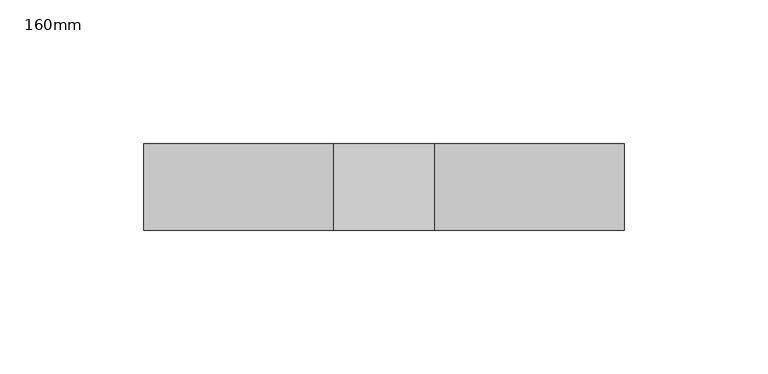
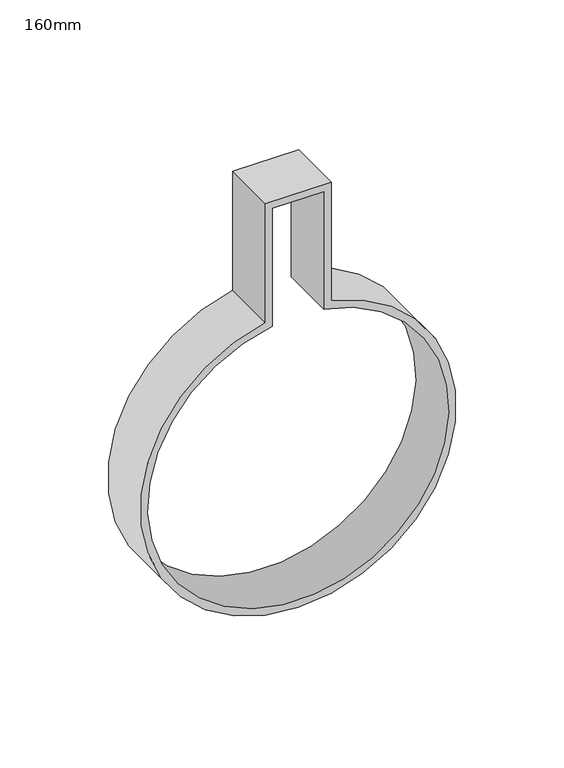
"""IFC4 building model written with IfcOpenShell, lengths in millimetres: pipe fitting geometry, AmancoWavin_AccesóriosdoTubo_QSSuporteDeslizanteH : 160mm."""

from ifc_helpers import new_model, si_unit, point, frame, origin, origin_2d, place, context, project, spatial, polyline, circle_curve, trimmed, segment, composite_curve, outline, extrude, source, transform, mapped, element, save


def pipe_fitting_160mm_f1266ca1(model_context):
    return source(origin(), model_context, "Body", "SweptSolid", [
        extrude(outline(composite_curve([segment(polyline([(82.1568622, 17.5), (149.0, 17.5), (149.0, -17.5), (82.1568622, -17.5)]), True, "CONTINUOUS"), segment(trimmed(circle_curve(origin_2d(), 84.0), [point((82.1568622, -17.5))], [point((82.1568622, 17.5))], False, "CARTESIAN"), True, "CONTINUOUS")], self_intersect=False), holes=[composite_curve([segment(trimmed(circle_curve(origin_2d(), 80.0), [point((78.8527108, 13.5))], [point((78.8527108, -13.5))], True, "CARTESIAN"), True, "CONTINUOUS"), segment(polyline([(78.8527108, -13.5), (145.0, -13.5), (145.0, 13.5), (78.8527108, 13.5)]), True, "CONTINUOUS")], self_intersect=False)]), frame((0.0, -15.0, 0.0), z_axis=(0.0, 1.0, 0.0), x_axis=(0.0, 0.0, 1.0)), (0.0, 0.0, 1.0), 30.0),
    ])


if __name__ == "__main__":
    model = new_model("IFC4")
    model_context = context("Model", 3, world=origin())
    ifc_project = project(units=[si_unit("LENGTHUNIT", "METRE", prefix="MILLI")], contexts=[model_context])
    site = spatial("IfcSite", under=ifc_project)
    building = spatial("IfcBuilding", under=site)
    placement = place(None, origin())
    pipe_fitting_160mm_shape = pipe_fitting_160mm_f1266ca1(model_context)
    element("IfcPipeFitting", 1, ObjectType="AmancoWavin_AccesóriosdoTubo_QSSuporteDeslizanteH : 160mm", at=placement, inside=building, context=model_context, shape_type="MappedRepresentation", body=[
        mapped(pipe_fitting_160mm_shape, transform((0.0, 0.0, 0.0), x_axis=(1.0, 0.0, 0.0), y_axis=(0.0, 1.0, 0.0), z_axis=(0.0, 0.0, 1.0))),
    ])
    save(model, "model.ifc")
